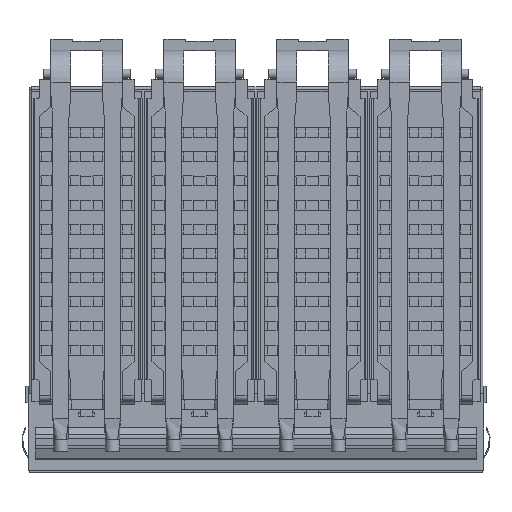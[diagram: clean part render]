
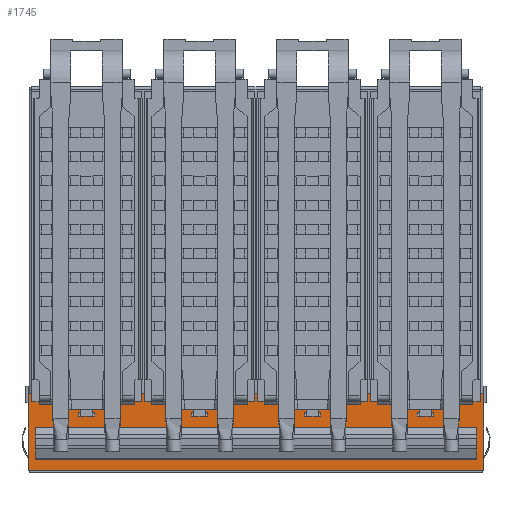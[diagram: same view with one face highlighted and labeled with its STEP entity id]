
A CAD part, top view. The second image highlights one B-rep face of the part: STEP entity #1745.
In plain terms, the highlighted planar face has unit normal (0, 0, 1).
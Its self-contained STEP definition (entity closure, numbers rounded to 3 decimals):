
#705=FACE_BOUND('',#8630,.T.);
#706=FACE_BOUND('',#8631,.T.);
#1745=ADVANCED_FACE('',(#705,#706),#4228,.T.);
#4228=PLANE('',#50155);
#8630=EDGE_LOOP('',(#11745,#11746,#11747,#11748));
#8631=EDGE_LOOP('',(#11749,#11750,#11751,#11752,#11753,#11754,#11755,#11756,
#11757,#11758,#11759,#11760,#11761,#11762,#11763,#11764,#11765,#11766,#11767,
#11768));
#11745=ORIENTED_EDGE('',*,*,#30923,.F.);
#11746=ORIENTED_EDGE('',*,*,#30924,.F.);
#11747=ORIENTED_EDGE('',*,*,#30925,.T.);
#11748=ORIENTED_EDGE('',*,*,#30926,.T.);
#11749=ORIENTED_EDGE('',*,*,#30920,.T.);
#11750=ORIENTED_EDGE('',*,*,#30927,.T.);
#11751=ORIENTED_EDGE('',*,*,#30928,.T.);
#11752=ORIENTED_EDGE('',*,*,#30929,.T.);
#11753=ORIENTED_EDGE('',*,*,#30930,.T.);
#11754=ORIENTED_EDGE('',*,*,#30931,.T.);
#11755=ORIENTED_EDGE('',*,*,#30932,.F.);
#11756=ORIENTED_EDGE('',*,*,#30933,.F.);
#11757=ORIENTED_EDGE('',*,*,#30934,.T.);
#11758=ORIENTED_EDGE('',*,*,#30935,.T.);
#11759=ORIENTED_EDGE('',*,*,#30936,.T.);
#11760=ORIENTED_EDGE('',*,*,#30937,.T.);
#11761=ORIENTED_EDGE('',*,*,#30938,.T.);
#11762=ORIENTED_EDGE('',*,*,#30939,.T.);
#11763=ORIENTED_EDGE('',*,*,#30940,.T.);
#11764=ORIENTED_EDGE('',*,*,#30941,.T.);
#11765=ORIENTED_EDGE('',*,*,#30942,.T.);
#11766=ORIENTED_EDGE('',*,*,#30943,.T.);
#11767=ORIENTED_EDGE('',*,*,#30944,.T.);
#11768=ORIENTED_EDGE('',*,*,#30945,.T.);
#26179=VERTEX_POINT('',#67398);
#26181=VERTEX_POINT('',#67401);
#26183=VERTEX_POINT('',#67407);
#26184=VERTEX_POINT('',#67408);
#26185=VERTEX_POINT('',#67410);
#26186=VERTEX_POINT('',#67412);
#26187=VERTEX_POINT('',#67415);
#26188=VERTEX_POINT('',#67417);
#26189=VERTEX_POINT('',#67419);
#26190=VERTEX_POINT('',#67421);
#26191=VERTEX_POINT('',#67423);
#26192=VERTEX_POINT('',#67425);
#26193=VERTEX_POINT('',#67427);
#26194=VERTEX_POINT('',#67429);
#26195=VERTEX_POINT('',#67431);
#26196=VERTEX_POINT('',#67433);
#26197=VERTEX_POINT('',#67435);
#26198=VERTEX_POINT('',#67437);
#26199=VERTEX_POINT('',#67439);
#26200=VERTEX_POINT('',#67441);
#26201=VERTEX_POINT('',#67443);
#26202=VERTEX_POINT('',#67445);
#26203=VERTEX_POINT('',#67447);
#26204=VERTEX_POINT('',#67449);
#30920=EDGE_CURVE('',#26181,#26179,#37879,.T.);
#30923=EDGE_CURVE('',#26183,#26184,#37882,.T.);
#30924=EDGE_CURVE('',#26185,#26183,#37883,.T.);
#30925=EDGE_CURVE('',#26185,#26186,#37884,.T.);
#30926=EDGE_CURVE('',#26186,#26184,#37885,.T.);
#30927=EDGE_CURVE('',#26179,#26187,#37886,.T.);
#30928=EDGE_CURVE('',#26187,#26188,#37887,.T.);
#30929=EDGE_CURVE('',#26188,#26189,#37888,.T.);
#30930=EDGE_CURVE('',#26189,#26190,#37889,.T.);
#30931=EDGE_CURVE('',#26190,#26191,#37890,.T.);
#30932=EDGE_CURVE('',#26192,#26191,#37891,.T.);
#30933=EDGE_CURVE('',#26193,#26192,#37892,.T.);
#30934=EDGE_CURVE('',#26193,#26194,#37893,.T.);
#30935=EDGE_CURVE('',#26194,#26195,#37894,.T.);
#30936=EDGE_CURVE('',#26195,#26196,#37895,.T.);
#30937=EDGE_CURVE('',#26196,#26197,#37896,.T.);
#30938=EDGE_CURVE('',#26197,#26198,#37897,.T.);
#30939=EDGE_CURVE('',#26198,#26199,#37898,.T.);
#30940=EDGE_CURVE('',#26199,#26200,#37899,.T.);
#30941=EDGE_CURVE('',#26200,#26201,#37900,.T.);
#30942=EDGE_CURVE('',#26201,#26202,#37901,.T.);
#30943=EDGE_CURVE('',#26202,#26203,#37902,.T.);
#30944=EDGE_CURVE('',#26203,#26204,#37903,.T.);
#30945=EDGE_CURVE('',#26204,#26181,#37904,.T.);
#37879=LINE('',#67400,#44032);
#37882=LINE('',#67406,#44035);
#37883=LINE('',#67409,#44036);
#37884=LINE('',#67411,#44037);
#37885=LINE('',#67413,#44038);
#37886=LINE('',#67414,#44039);
#37887=LINE('',#67416,#44040);
#37888=LINE('',#67418,#44041);
#37889=LINE('',#67420,#44042);
#37890=LINE('',#67422,#44043);
#37891=LINE('',#67424,#44044);
#37892=LINE('',#67426,#44045);
#37893=LINE('',#67428,#44046);
#37894=LINE('',#67430,#44047);
#37895=LINE('',#67432,#44048);
#37896=LINE('',#67434,#44049);
#37897=LINE('',#67436,#44050);
#37898=LINE('',#67438,#44051);
#37899=LINE('',#67440,#44052);
#37900=LINE('',#67442,#44053);
#37901=LINE('',#67444,#44054);
#37902=LINE('',#67446,#44055);
#37903=LINE('',#67448,#44056);
#37904=LINE('',#67450,#44057);
#44032=VECTOR('',#54177,1.);
#44035=VECTOR('',#54182,1.);
#44036=VECTOR('',#54183,1.);
#44037=VECTOR('',#54184,1.);
#44038=VECTOR('',#54185,1.);
#44039=VECTOR('',#54186,1.);
#44040=VECTOR('',#54187,1.);
#44041=VECTOR('',#54188,1.);
#44042=VECTOR('',#54189,1.);
#44043=VECTOR('',#54190,1.);
#44044=VECTOR('',#54191,1.);
#44045=VECTOR('',#54192,1.);
#44046=VECTOR('',#54193,1.);
#44047=VECTOR('',#54194,1.);
#44048=VECTOR('',#54195,1.);
#44049=VECTOR('',#54196,1.);
#44050=VECTOR('',#54197,1.);
#44051=VECTOR('',#54198,1.);
#44052=VECTOR('',#54199,1.);
#44053=VECTOR('',#54200,1.);
#44054=VECTOR('',#54201,1.);
#44055=VECTOR('',#54202,1.);
#44056=VECTOR('',#54203,1.);
#44057=VECTOR('',#54204,1.);
#50155=AXIS2_PLACEMENT_3D('',#67451,#54205,#54206);
#54177=DIRECTION('',(-1.,0.,0.));
#54182=DIRECTION('',(-1.,0.,0.));
#54183=DIRECTION('',(0.,1.,0.));
#54184=DIRECTION('',(-1.,0.,0.));
#54185=DIRECTION('',(0.,1.,0.));
#54186=DIRECTION('',(0.,-1.,0.));
#54187=DIRECTION('',(-1.,0.,0.));
#54188=DIRECTION('',(0.,1.,0.));
#54189=DIRECTION('',(-1.,0.,0.));
#54190=DIRECTION('',(0.,-1.,0.));
#54191=DIRECTION('',(-1.,0.,0.));
#54192=DIRECTION('',(0.,-1.,0.));
#54193=DIRECTION('',(-1.,0.,0.));
#54194=DIRECTION('',(0.,-1.,0.));
#54195=DIRECTION('',(-1.,0.,0.));
#54196=DIRECTION('',(0.,1.,0.));
#54197=DIRECTION('',(-1.,0.,0.));
#54198=DIRECTION('',(0.,-1.,0.));
#54199=DIRECTION('',(-1.,0.,0.));
#54200=DIRECTION('',(0.,1.,0.));
#54201=DIRECTION('',(-1.,0.,0.));
#54202=DIRECTION('',(0.,-1.,0.));
#54203=DIRECTION('',(-1.,0.,0.));
#54204=DIRECTION('',(0.,1.,0.));
#54205=DIRECTION('',(0.,0.,1.));
#54206=DIRECTION('',(0.,-1.,0.));
#67398=CARTESIAN_POINT('',(-14.475,10.,0.12));
#67400=CARTESIAN_POINT('',(28.745,10.,0.12));
#67401=CARTESIAN_POINT('',(-14.025,10.,0.12));
#67406=CARTESIAN_POINT('',(27.85,1.981,0.12));
#67407=CARTESIAN_POINT('',(27.85,1.981,0.12));
#67408=CARTESIAN_POINT('',(-27.85,1.981,0.12));
#67409=CARTESIAN_POINT('',(27.85,1.981,0.12));
#67410=CARTESIAN_POINT('',(27.85,1.7,0.12));
#67411=CARTESIAN_POINT('',(27.85,1.7,0.12));
#67412=CARTESIAN_POINT('',(-27.85,1.7,0.12));
#67413=CARTESIAN_POINT('',(-27.85,1.981,0.12));
#67414=CARTESIAN_POINT('',(-14.475,10.,0.12));
#67415=CARTESIAN_POINT('',(-14.475,9.,0.12));
#67416=CARTESIAN_POINT('',(28.745,9.,0.12));
#67417=CARTESIAN_POINT('',(-28.275,9.,0.12));
#67418=CARTESIAN_POINT('',(-28.275,10.,0.12));
#67419=CARTESIAN_POINT('',(-28.275,10.,0.12));
#67420=CARTESIAN_POINT('',(28.745,10.,0.12));
#67421=CARTESIAN_POINT('',(-28.745,10.,0.12));
#67422=CARTESIAN_POINT('',(-28.745,10.,0.12));
#67423=CARTESIAN_POINT('',(-28.745,0.3,0.12));
#67424=CARTESIAN_POINT('',(28.745,0.3,0.12));
#67425=CARTESIAN_POINT('',(28.745,0.3,0.12));
#67426=CARTESIAN_POINT('',(28.745,10.,0.12));
#67427=CARTESIAN_POINT('',(28.745,10.,0.12));
#67428=CARTESIAN_POINT('',(28.745,10.,0.12));
#67429=CARTESIAN_POINT('',(28.275,10.,0.12));
#67430=CARTESIAN_POINT('',(28.275,10.,0.12));
#67431=CARTESIAN_POINT('',(28.275,9.,0.12));
#67432=CARTESIAN_POINT('',(28.745,9.,0.12));
#67433=CARTESIAN_POINT('',(14.475,9.,0.12));
#67434=CARTESIAN_POINT('',(14.475,10.,0.12));
#67435=CARTESIAN_POINT('',(14.475,10.,0.12));
#67436=CARTESIAN_POINT('',(28.745,10.,0.12));
#67437=CARTESIAN_POINT('',(14.025,10.,0.12));
#67438=CARTESIAN_POINT('',(14.025,10.,0.12));
#67439=CARTESIAN_POINT('',(14.025,9.,0.12));
#67440=CARTESIAN_POINT('',(28.745,9.,0.12));
#67441=CARTESIAN_POINT('',(0.225,9.,0.12));
#67442=CARTESIAN_POINT('',(0.225,10.,0.12));
#67443=CARTESIAN_POINT('',(0.225,10.,0.12));
#67444=CARTESIAN_POINT('',(28.745,10.,0.12));
#67445=CARTESIAN_POINT('',(-0.225,10.,0.12));
#67446=CARTESIAN_POINT('',(-0.225,10.,0.12));
#67447=CARTESIAN_POINT('',(-0.225,9.,0.12));
#67448=CARTESIAN_POINT('',(28.745,9.,0.12));
#67449=CARTESIAN_POINT('',(-14.025,9.,0.12));
#67450=CARTESIAN_POINT('',(-14.025,10.,0.12));
#67451=CARTESIAN_POINT('',(28.745,10.,0.12));
